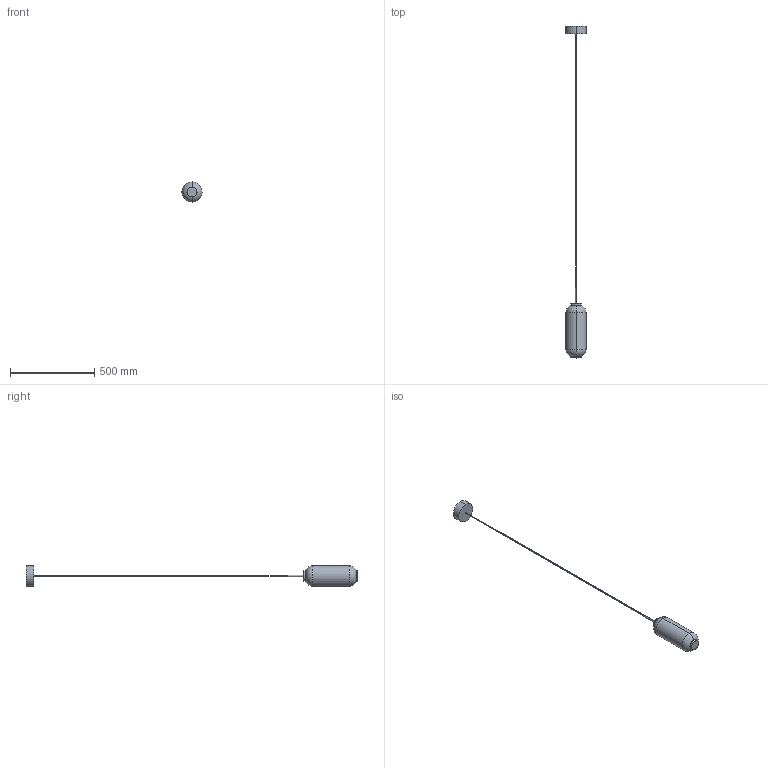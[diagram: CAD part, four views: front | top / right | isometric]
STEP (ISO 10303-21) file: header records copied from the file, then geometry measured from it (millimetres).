
FILE_DESCRIPTION (( 'STEP AP214' ), '1' );
FILE_NAME ('ELMA_CU1312-S.STEP', '2026-06-05T08:09:25', ( '' ), ( '' ), 'SwSTEP 2.0', 'SolidWorks 2023', '' );
FILE_SCHEMA (( 'AUTOMOTIVE_DESIGN' ));
Length unit declared in the file: inch
Products named in the file (1): ELMA_CU1312-S
Bounding box: 120 x 1964.96 x 120 mm (x, y, z)
Volume: 2296625.2 mm3; surface area: 361862.8 mm2
Topology: 5 solids, 5 shells, 42 faces, 74 edges, 44 vertices
Faces by surface type: cylinder 18, torus 12, plane 12
Entity records: 1097 total; most frequent: DIRECTION 216, CARTESIAN_POINT 161, ORIENTED_EDGE 148, AXIS2_PLACEMENT_3D 99, EDGE_CURVE 74, CIRCLE 56, EDGE_LOOP 44, VERTEX_POINT 44
